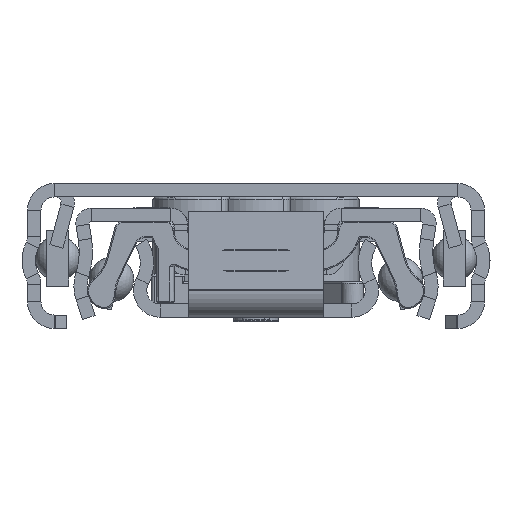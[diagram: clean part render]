
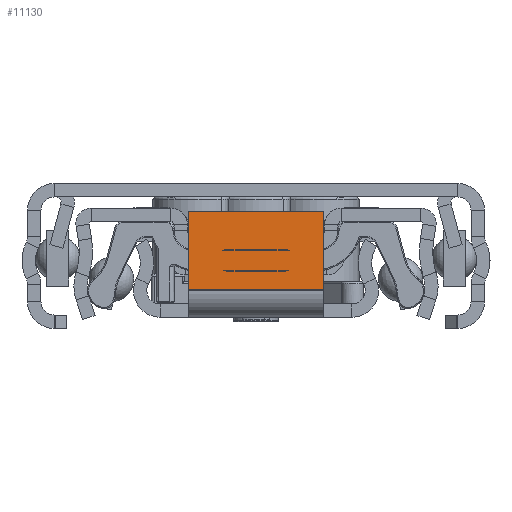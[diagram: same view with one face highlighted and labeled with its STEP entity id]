
A CAD part, left-side view. The second image highlights one B-rep face of the part: STEP entity #11130.
In plain terms, the highlighted planar face has unit normal (-0.999, 0, 0.035).
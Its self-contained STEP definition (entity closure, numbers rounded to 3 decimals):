
#1245 = DIRECTION ( 'NONE',  ( 0.035, 0., 0.999 ) ) ;
#1651 = DIRECTION ( 'NONE',  ( 0.035, 0., 0.999 ) ) ;
#4244 = CARTESIAN_POINT ( 'NONE',  ( -248.255, -6.1, 1.284 ) ) ;
#4367 = LINE ( 'NONE', #17087, #18773 ) ;
#6831 = LINE ( 'NONE', #25780, #34208 ) ;
#7658 = CARTESIAN_POINT ( 'NONE',  ( -248.01, 6.1, 8.294 ) ) ;
#11130 = ADVANCED_FACE ( 'NONE', ( #37046 ), #27067, .T. ) ;
#11460 = DIRECTION ( 'NONE',  ( 0., -1., 0. ) ) ;
#11820 = DIRECTION ( 'NONE',  ( 0., -1., 0. ) ) ;
#12010 = VECTOR ( 'NONE', #11820, 1000. ) ;
#14178 = VERTEX_POINT ( 'NONE', #4244 ) ;
#14314 = CARTESIAN_POINT ( 'NONE',  ( -248.255, 6.1, 1.284 ) ) ;
#17087 = CARTESIAN_POINT ( 'NONE',  ( -248.01, 6.1, 8.294 ) ) ;
#17890 = DIRECTION ( 'NONE',  ( -0.999, 0., 0.035 ) ) ;
#18094 = EDGE_CURVE ( 'NONE', #19821, #24636, #4367, .T. ) ;
#18773 = VECTOR ( 'NONE', #1245, 1000. ) ;
#18988 = EDGE_LOOP ( 'NONE', ( #19887, #27499, #24999, #33551 ) ) ;
#19821 = VERTEX_POINT ( 'NONE', #14314 ) ;
#19887 = ORIENTED_EDGE ( 'NONE', *, *, #18094, .F. ) ;
#23693 = CARTESIAN_POINT ( 'NONE',  ( -248.01, -6.1, 8.294 ) ) ;
#23923 = CARTESIAN_POINT ( 'NONE',  ( -247.996, 0., 8.709 ) ) ;
#23939 = LINE ( 'NONE', #39970, #37584 ) ;
#24542 = EDGE_CURVE ( 'NONE', #32828, #14178, #6831, .T. ) ;
#24636 = VERTEX_POINT ( 'NONE', #7658 ) ;
#24999 = ORIENTED_EDGE ( 'NONE', *, *, #24542, .F. ) ;
#25780 = CARTESIAN_POINT ( 'NONE',  ( -248.299, -6.1, 0.042 ) ) ;
#26815 = EDGE_CURVE ( 'NONE', #19821, #14178, #23939, .T. ) ;
#27067 = PLANE ( 'NONE',  #29486 ) ;
#27434 = CARTESIAN_POINT ( 'NONE',  ( -248.01, -6.1, 8.294 ) ) ;
#27499 = ORIENTED_EDGE ( 'NONE', *, *, #26815, .T. ) ;
#29082 = DIRECTION ( 'NONE',  ( -0.035, 0., -0.999 ) ) ;
#29486 = AXIS2_PLACEMENT_3D ( 'NONE', #23923, #17890, #1651 ) ;
#32828 = VERTEX_POINT ( 'NONE', #23693 ) ;
#33551 = ORIENTED_EDGE ( 'NONE', *, *, #35219, .F. ) ;
#34208 = VECTOR ( 'NONE', #29082, 1000. ) ;
#35219 = EDGE_CURVE ( 'NONE', #24636, #32828, #36583, .T. ) ;
#36583 = LINE ( 'NONE', #27434, #12010 ) ;
#37046 = FACE_OUTER_BOUND ( 'NONE', #18988, .T. ) ;
#37584 = VECTOR ( 'NONE', #11460, 1000. ) ;
#39970 = CARTESIAN_POINT ( 'NONE',  ( -248.255, 0., 1.284 ) ) ;
